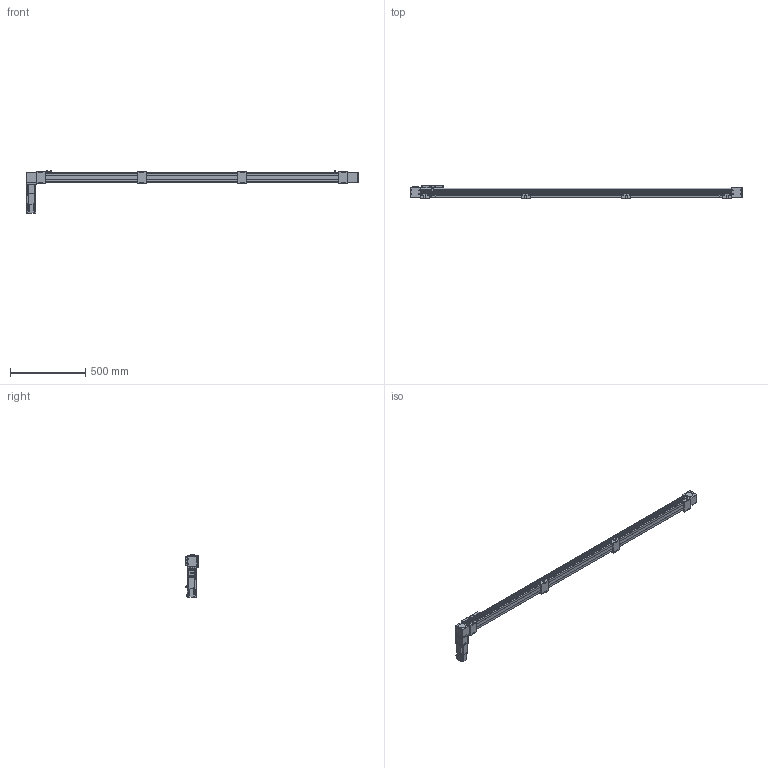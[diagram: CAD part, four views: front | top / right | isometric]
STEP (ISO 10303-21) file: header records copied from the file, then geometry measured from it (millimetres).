
FILE_DESCRIPTION(/* description */ ('STEP AP203'),/* implementation_level */ '2;1');
FILE_NAME(/* name */ 'SK60-P13-S1900-BR-T40-C1-N(0)',/* time_stamp */ '2023-04-06T04:00:29+02:00',/* author */ ('License CC BY-ND 4.0'),/* organization */ ('CADENAS'),/* preprocessor_version */ 'ST-DEVELOPER v19.3',/* originating_system */ 'PARTsolutions',/* authorisation */ ' ');
FILE_SCHEMA (('CONFIG_CONTROL_DESIGN'));
Length unit declared in the file: millimetre
Products named in the file (11): SK60-P13-S1900-BR-T40-C1-N(0); PSC140-sensor; SK60-S450_seat; SK60-S450-BL-C1_slider; SK60_body3; SK60_body6; SK60-BL_body2; T40-p1; SK60_body5; SK60_body4; SK60-S1900-BR-C1_body
Assembly tree (19 placements, depth 2):
  SK60-P13-S1900-BR-T40-C1-N(0)
    PSC140-sensor  x3
    SK60-S450_seat  x4
    SK60-S450-BL-C1_slider
    SK60_body3  x3
    SK60_body6  x2
    SK60-BL_body2  x2
    T40-p1
    SK60_body5
    SK60_body4
    SK60-S1900-BR-C1_body
Bounding box: 2200 x 90 x 279.1 mm (x, y, z)
Volume: 8057883.9 mm3; surface area: 1006334 mm2
Topology: 19 solids, 23 shells, 922 faces, 2305 edges, 1522 vertices
Faces by surface type: plane 592, cylinder 298, cone 30, torus 2
Full cylindrical faces by diameter (mm): 2.8 x3, 3.3 x4, 4.2 x8, 4.5 x26, 4.6 x3, 4.917 x24, 5 x2, 5.478 x4, 5.5 x27, 6.5 x8, 8 x4, 8.5 x4, 9.988 x4, 10 x16, 13.556 x1, 14 x1, 14.586 x1, 19.692 x1, 38.432 x2, 43 x1, 44 x3, 47 x2, 50 x2
Entity records: 19387 total; most frequent: DIRECTION 3296, CARTESIAN_POINT 3291, ORIENTED_EDGE 3050, EDGE_CURVE 1525, AXIS2_PLACEMENT_3D 1102, LINE 1092, VECTOR 1092, VERTEX_POINT 1077
